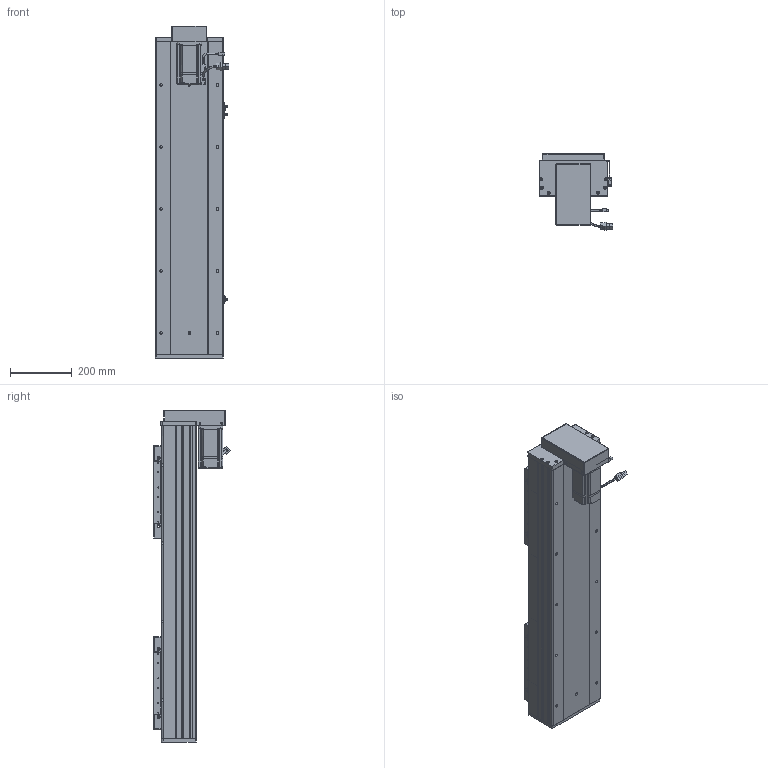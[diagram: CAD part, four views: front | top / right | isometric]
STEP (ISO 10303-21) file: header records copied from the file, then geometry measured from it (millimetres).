
FILE_DESCRIPTION (( 'STEP AP203' ), '1' );
FILE_NAME ('RY220F-L2525-300-BK.SLDASM_600.step', '2022-07-04T01:20:31', ( '' ), ( '' ), 'SwSTEP 2.0', 'SolidWorks 2016', '' );
FILE_SCHEMA (( 'CONFIG_CONTROL_DESIGN' ));
Length unit declared in the file: millimetre
Products named in the file (15): RY220狟殏萇儂假蚾啣; RY220狟殏萇儂欶; RY220F-蛌殏奻裔啣-300_600; 怢湛750W_ECMA-CX0807ES; RY220F-詩湍揤踡輸; RY220F臏賑釱25-32佪裝; RY220F蛌殏菁釱-300_600; 覜茼ん672; RY220F-672覜茼んえ; 滅袉蝶18-24; RY220F綴裔啣; 侐源滅袉蝶; RY220F-L2525-300-BK.SLDASM_600; RY220F-滅鳥奻裔; RY220F-祥凄詩湍-蛌殏-300_600
Assembly tree (24 placements, depth 2):
  RY220F-L2525-300-BK.SLDASM_600
    RY220F蛌殏菁釱-300_600
    RY220F-蛌殏奻裔啣-300_600  x2
    怢湛750W_ECMA-CX0807ES
    RY220F臏賑釱25-32佪裝  x2
    RY220F-滅鳥奻裔  x2
    滅袉蝶18-24  x3
    RY220F綴裔啣
    RY220F-祥凄詩湍-蛌殏-300_600
    RY220F-詩湍揤踡輸  x2
    覜茼ん672  x3
    RY220F-672覜茼んえ  x2
    侐源滅袉蝶  x2
    RY220狟殏萇儂假蚾啣
    RY220狟殏萇儂欶
Bounding box: 237.27 x 247.24 x 1071 mm (x, y, z)
Volume: 11781210.7 mm3; surface area: 2975073.6 mm2
Topology: 25 solids, 25 shells, 2691 faces, 7326 edges, 4551 vertices
Faces by surface type: cylinder 1186, plane 1062, cone 372, bspline 45, sphere 16, torus 10
Entity records: 66493 total; most frequent: CARTESIAN_POINT 18305, ORIENTED_EDGE 9778, DIRECTION 9389, EDGE_CURVE 4889, AXIS2_PLACEMENT_3D 3302, VERTEX_POINT 3167, VECTOR 2785, LINE 2785
